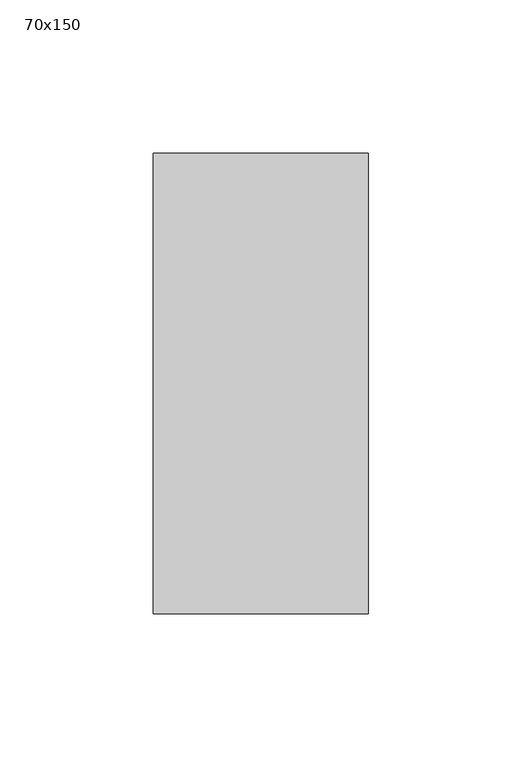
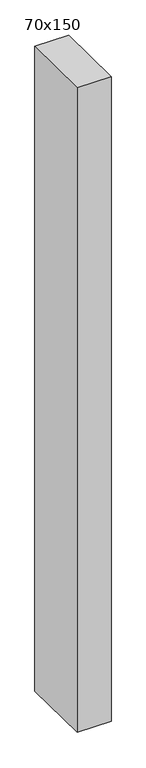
"""IFC4 building model written with IfcOpenShell, lengths in millimetres: member geometry, 長方形のマリオン : 70x150."""

from ifc_helpers import new_model, si_unit, frame, origin, place, context, project, spatial, polyline, outline, extrude, source, transform, mapped, element, save


def member_70x150_0db77144(model_context):
    return source(origin(), model_context, "Body", "SweptSolid", [
        extrude(outline(polyline([(-75.0, 0.3082573), (75.0, -0.3082573), (75.0, -1402.7317195), (-75.0, -1401.2193867), (-75.0, 0.3082573)])), frame((-70.0, 0.0, 0.0), z_axis=(1.0, 0.0, 0.0), x_axis=(0.0, 1.0, 0.0)), (0.0, 0.0, 1.0), 70.0),
    ])


if __name__ == "__main__":
    model = new_model("IFC4")
    model_context = context("Model", 3, world=origin())
    ifc_project = project(units=[si_unit("LENGTHUNIT", "METRE", prefix="MILLI")], contexts=[model_context])
    site = spatial("IfcSite", under=ifc_project)
    building = spatial("IfcBuilding", under=site)
    placement = place(None, origin())
    member_70x150_shape = member_70x150_0db77144(model_context)
    element("IfcMember", 1, ObjectType="長方形のマリオン : 70x150", at=placement, inside=building, context=model_context, shape_type="MappedRepresentation", body=[
        mapped(member_70x150_shape, transform((0.0, 0.0, 0.0), x_axis=(1.0, 0.0, 0.0), y_axis=(0.0, 1.0, 0.0), z_axis=(0.0, 0.0, 1.0))),
    ])
    save(model, "model.ifc")
